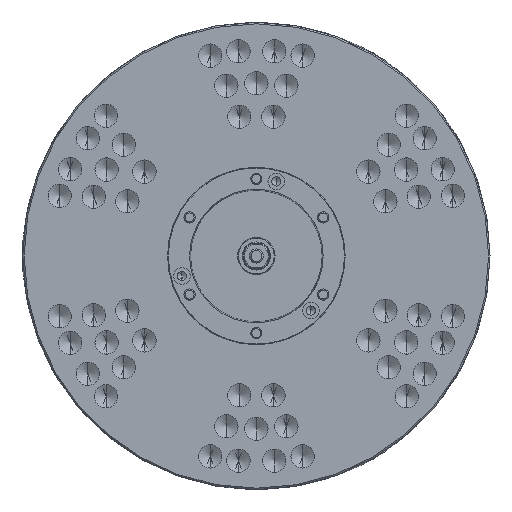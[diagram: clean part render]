
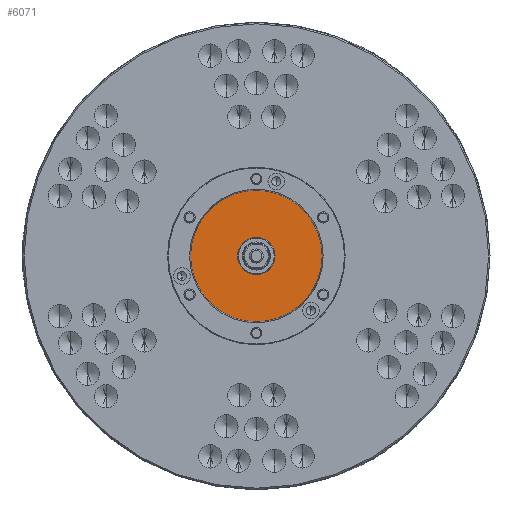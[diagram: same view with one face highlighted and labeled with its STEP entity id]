
A CAD part, left-side view. The second image highlights one B-rep face of the part: STEP entity #6071.
In plain terms, the highlighted planar face has unit normal (-1, 0, 0) as drawn and (0, 0, -1) by its records, which use the part's own axes.
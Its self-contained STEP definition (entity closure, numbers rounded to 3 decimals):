
#1271 = PLANE ( 'NONE',  #153137 ) ;
#2598 = VERTEX_POINT ( 'NONE', #42657 ) ;
#5613 = EDGE_LOOP ( 'NONE', ( #13930, #6429 ) ) ;
#6071 = ADVANCED_FACE ( 'NONE', ( #165065, #52954 ), #1271, .F. ) ;
#6429 = ORIENTED_EDGE ( 'NONE', *, *, #76634, .F. ) ;
#9992 = DIRECTION ( 'NONE',  ( 0., 0., 1. ) ) ;
#10154 = ORIENTED_EDGE ( 'NONE', *, *, #175723, .T. ) ;
#13930 = ORIENTED_EDGE ( 'NONE', *, *, #107061, .F. ) ;
#14445 = CARTESIAN_POINT ( 'NONE',  ( 0., 0., -145. ) ) ;
#17143 = EDGE_CURVE ( 'NONE', #24275, #2598, #55228, .T. ) ;
#24275 = VERTEX_POINT ( 'NONE', #176099 ) ;
#29151 = DIRECTION ( 'NONE',  ( 1., 0., 0. ) ) ;
#34078 = CIRCLE ( 'NONE', #43648, 40. ) ;
#35933 = EDGE_LOOP ( 'NONE', ( #101030, #10154 ) ) ;
#42657 = CARTESIAN_POINT ( 'NONE',  ( -40., 0., -145. ) ) ;
#43648 = AXIS2_PLACEMENT_3D ( 'NONE', #166581, #78991, #181310 ) ;
#44750 = CARTESIAN_POINT ( 'NONE',  ( 140.7, 0., -145. ) ) ;
#51355 = CIRCLE ( 'NONE', #181408, 140.7 ) ;
#52954 = FACE_OUTER_BOUND ( 'NONE', #5613, .T. ) ;
#55228 = CIRCLE ( 'NONE', #167949, 40. ) ;
#76634 = EDGE_CURVE ( 'NONE', #172328, #148434, #51355, .T. ) ;
#78991 = DIRECTION ( 'NONE',  ( 0., 0., 1. ) ) ;
#79326 = CARTESIAN_POINT ( 'NONE',  ( 0., 0., -145. ) ) ;
#80542 = CIRCLE ( 'NONE', #137710, 140.7 ) ;
#94037 = DIRECTION ( 'NONE',  ( 1., 0., 0. ) ) ;
#97669 = CARTESIAN_POINT ( 'NONE',  ( 0., 0., -145. ) ) ;
#101030 = ORIENTED_EDGE ( 'NONE', *, *, #17143, .T. ) ;
#103741 = CARTESIAN_POINT ( 'NONE',  ( 0., -140.7, -145. ) ) ;
#107061 = EDGE_CURVE ( 'NONE', #148434, #172328, #80542, .T. ) ;
#112377 = DIRECTION ( 'NONE',  ( 1., 0., 0. ) ) ;
#116826 = DIRECTION ( 'NONE',  ( 0., 0., 1. ) ) ;
#118453 = DIRECTION ( 'NONE',  ( 1., 0., 0. ) ) ;
#137710 = AXIS2_PLACEMENT_3D ( 'NONE', #97669, #9992, #112377 ) ;
#148434 = VERTEX_POINT ( 'NONE', #44750 ) ;
#149788 = CARTESIAN_POINT ( 'NONE',  ( -140.7, 0., -145. ) ) ;
#153137 = AXIS2_PLACEMENT_3D ( 'NONE', #103741, #161911, #118453 ) ;
#161911 = DIRECTION ( 'NONE',  ( 0., 0., 1. ) ) ;
#165065 = FACE_BOUND ( 'NONE', #35933, .T. ) ;
#166581 = CARTESIAN_POINT ( 'NONE',  ( 0., 0., -145. ) ) ;
#167949 = AXIS2_PLACEMENT_3D ( 'NONE', #14445, #116826, #29151 ) ;
#172328 = VERTEX_POINT ( 'NONE', #149788 ) ;
#175723 = EDGE_CURVE ( 'NONE', #2598, #24275, #34078, .T. ) ;
#176099 = CARTESIAN_POINT ( 'NONE',  ( 40., 0., -145. ) ) ;
#181310 = DIRECTION ( 'NONE',  ( 1., 0., 0. ) ) ;
#181408 = AXIS2_PLACEMENT_3D ( 'NONE', #79326, #181630, #94037 ) ;
#181630 = DIRECTION ( 'NONE',  ( 0., 0., 1. ) ) ;
